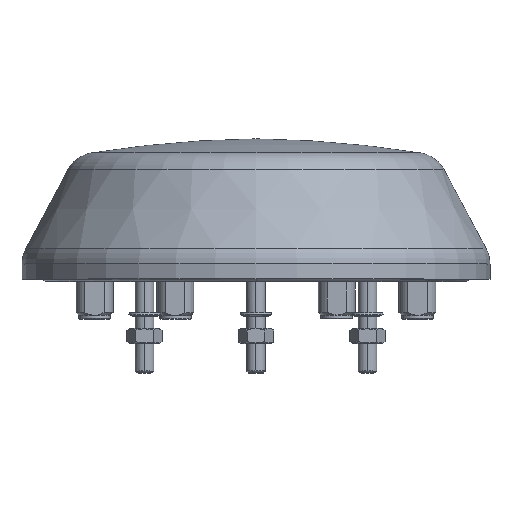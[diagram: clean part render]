
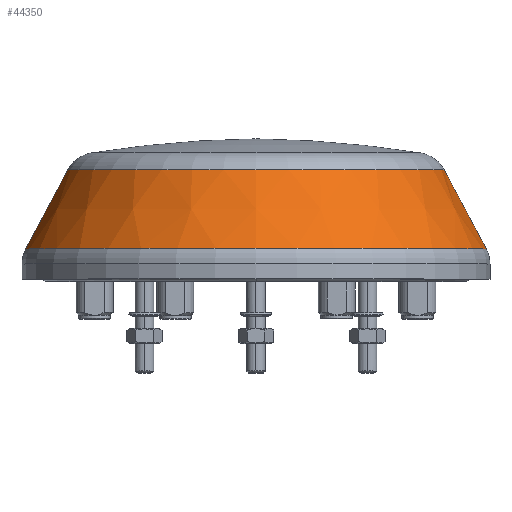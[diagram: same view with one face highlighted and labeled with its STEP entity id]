
A CAD part, top view. The second image highlights one B-rep face of the part: STEP entity #44350.
In plain terms, the highlighted conical face has half-angle 28 degrees and reference radius 100 mm.
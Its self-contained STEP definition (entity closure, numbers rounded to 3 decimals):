
#2965 = EDGE_LOOP ( 'NONE', ( #36492, #14761, #9301, #24608 ) ) ;
#3840 = AXIS2_PLACEMENT_3D ( 'NONE', #31459, #35154, #10619 ) ;
#4071 = CONICAL_SURFACE ( 'NONE', #25049, 100., 0.489 ) ;
#4700 = VERTEX_POINT ( 'NONE', #27593 ) ;
#5274 = CARTESIAN_POINT ( 'NONE',  ( -98.361, 13.082, 0. ) ) ;
#6718 = DIRECTION ( 'NONE',  ( -0.469, -0.883, 0. ) ) ;
#7289 = VERTEX_POINT ( 'NONE', #17433 ) ;
#7675 = VECTOR ( 'NONE', #6718, 1000. ) ;
#9301 = ORIENTED_EDGE ( 'NONE', *, *, #14760, .T. ) ;
#10607 = CIRCLE ( 'NONE', #3840, 98.361 ) ;
#10619 = DIRECTION ( 'NONE',  ( -1., 0., 0. ) ) ;
#12745 = VERTEX_POINT ( 'NONE', #5274 ) ;
#14432 = CARTESIAN_POINT ( 'NONE',  ( 0., 10., 0. ) ) ;
#14760 = EDGE_CURVE ( 'NONE', #12745, #4700, #10607, .T. ) ;
#14761 = ORIENTED_EDGE ( 'NONE', *, *, #22841, .T. ) ;
#15359 = DIRECTION ( 'NONE',  ( -1., 0., 0. ) ) ;
#15546 = CARTESIAN_POINT ( 'NONE',  ( 100., 10., 0. ) ) ;
#15750 = CARTESIAN_POINT ( 'NONE',  ( 80.473, 46.726, 0. ) ) ;
#16195 = EDGE_CURVE ( 'NONE', #38638, #4700, #26687, .T. ) ;
#17433 = CARTESIAN_POINT ( 'NONE',  ( -80.473, 46.726, 0. ) ) ;
#18550 = VECTOR ( 'NONE', #36591, 1000. ) ;
#18919 = EDGE_CURVE ( 'NONE', #38638, #7289, #20500, .T. ) ;
#20146 = LINE ( 'NONE', #27176, #7675 ) ;
#20500 = CIRCLE ( 'NONE', #31479, 80.473 ) ;
#22841 = EDGE_CURVE ( 'NONE', #7289, #12745, #20146, .T. ) ;
#24608 = ORIENTED_EDGE ( 'NONE', *, *, #16195, .F. ) ;
#25049 = AXIS2_PLACEMENT_3D ( 'NONE', #14432, #39148, #28734 ) ;
#26687 = LINE ( 'NONE', #15546, #18550 ) ;
#27176 = CARTESIAN_POINT ( 'NONE',  ( -100., 10., 0. ) ) ;
#27593 = CARTESIAN_POINT ( 'NONE',  ( 98.361, 13.082, 0. ) ) ;
#28734 = DIRECTION ( 'NONE',  ( 1., 0., 0. ) ) ;
#29071 = DIRECTION ( 'NONE',  ( 0., -1., 0. ) ) ;
#31459 = CARTESIAN_POINT ( 'NONE',  ( 0., 13.082, 0. ) ) ;
#31479 = AXIS2_PLACEMENT_3D ( 'NONE', #43374, #29071, #15359 ) ;
#35058 = FACE_OUTER_BOUND ( 'NONE', #2965, .T. ) ;
#35154 = DIRECTION ( 'NONE',  ( 0., 1., 0. ) ) ;
#36492 = ORIENTED_EDGE ( 'NONE', *, *, #18919, .T. ) ;
#36591 = DIRECTION ( 'NONE',  ( 0.469, -0.883, 0. ) ) ;
#38638 = VERTEX_POINT ( 'NONE', #15750 ) ;
#39148 = DIRECTION ( 'NONE',  ( 0., -1., 0. ) ) ;
#43374 = CARTESIAN_POINT ( 'NONE',  ( 0., 46.726, 0. ) ) ;
#44350 = ADVANCED_FACE ( 'NONE', ( #35058 ), #4071, .T. ) ;
